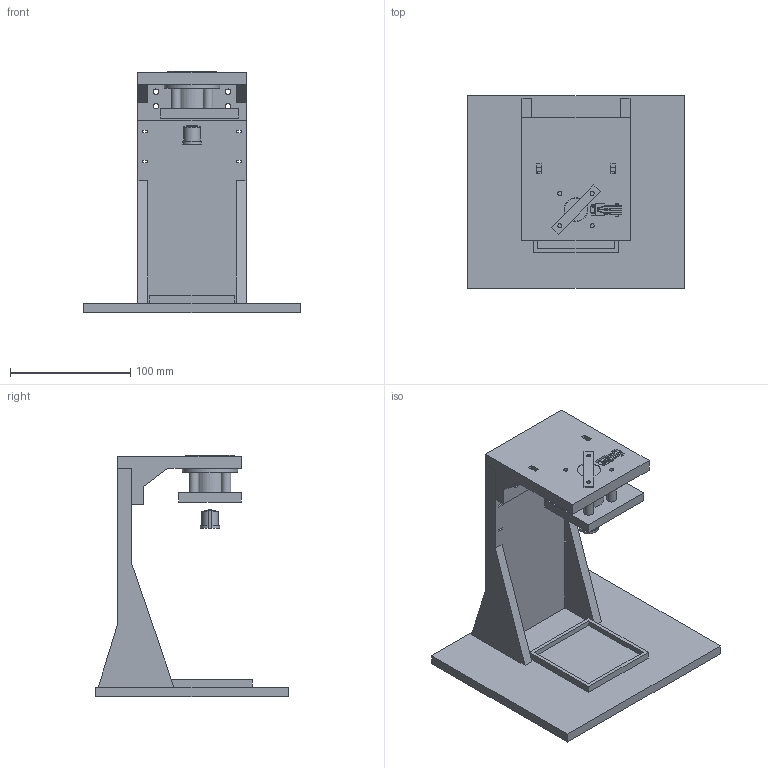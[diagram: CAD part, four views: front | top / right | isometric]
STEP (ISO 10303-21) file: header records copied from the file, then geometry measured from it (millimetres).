
FILE_DESCRIPTION(('Open CASCADE Model'),'2;1');
FILE_NAME('Open CASCADE Shape Model','2026-11-11T17:26:39',('Author'),( 'Open CASCADE'),'Open CASCADE STEP processor 7.9','Open CASCADE 7.9' ,'Unknown');
FILE_SCHEMA(('AUTOMOTIVE_DESIGN { 1 0 10303 214 1 1 1 1 }'));
Length unit declared in the file: millimetre
Products named in the file (17): OPTIONAL_top_stack_configuration; 01_frame_base_upright_tray; 02_cantilever_vented_head_upper_sensor; 03_four_DC1_stack_cassette_lower_LPG_seat; 04_D68_payload_carrier; REF_EM_nominal_25x20; REF_D68_N52_gap15; REF_DRV5056_lower_LPG_max_body; REF_DRV5056_upper_LPG_max_body; REF_lower_leads_formed; REF_upper_leads_formed; REF_nylon_retaining_loop_envelope; NONPRINT_top_stack_retainer_strip; REF_TOP_DC1_disk_1; REF_TOP_DC1_disk_2; REF_TOP_DC1_disk_3; REF_TOP_DC1_disk_4
Assembly tree (16 placements, depth 2):
  OPTIONAL_top_stack_configuration
    01_frame_base_upright_tray
    02_cantilever_vented_head_upper_sensor
    03_four_DC1_stack_cassette_lower_LPG_seat
    04_D68_payload_carrier
    REF_EM_nominal_25x20
    REF_D68_N52_gap15
    REF_DRV5056_lower_LPG_max_body
    REF_DRV5056_upper_LPG_max_body
    REF_lower_leads_formed
    REF_upper_leads_formed
    REF_nylon_retaining_loop_envelope
    NONPRINT_top_stack_retainer_strip
    REF_TOP_DC1_disk_1
    REF_TOP_DC1_disk_2
    REF_TOP_DC1_disk_3
    REF_TOP_DC1_disk_4
Bounding box: 180 x 160 x 201 mm (x, y, z)
Volume: 633713.5 mm3; surface area: 165396.4 mm2
Topology: 20 solids, 20 shells, 394 faces, 1040 edges, 688 vertices
Faces by surface type: plane 350, cylinder 44
Full cylindrical faces by diameter (mm): 0.55 x6, 3.4 x10, 4.5 x8, 8 x4, 9.525 x1, 10 x1, 19.05 x4, 19.6 x2, 25 x1, 46 x1
Entity records: 25578 total; most frequent: CARTESIAN_POINT 5021, DIRECTION 3496, LINE 2226, VECTOR 2226, ORIENTED_EDGE 2080, PCURVE 2080, DEFINITIONAL_REPRESENTATION 2080, EDGE_CURVE 1040
